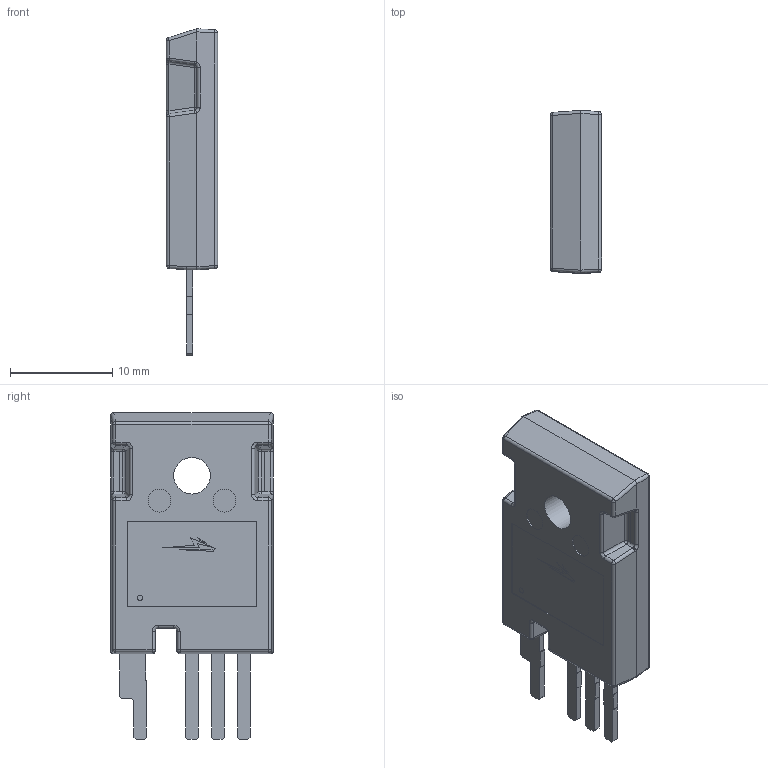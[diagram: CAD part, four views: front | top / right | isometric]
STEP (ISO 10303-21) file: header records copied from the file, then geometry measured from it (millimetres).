
FILE_DESCRIPTION(/* description */ (''),/* implementation_level */ '2;1');
FILE_NAME(/* name */ 'C:\Users\k\Desktop\1.stp',/* time_stamp */ '2022-01-06T15:42:21+02:00',/* author */ ('k'),/* organization */ (''),/* preprocessor_version */ 'ST-DEVELOPER v15.6',/* originating_system */ 'Autodesk Inventor 2015',/* authorisation */ '');
FILE_SCHEMA (('AUTOMOTIVE_DESIGN { 1 0 10303 214 3 1 1 }'));
Length unit declared in the file: millimetre
Products named in the file (8): 1; 2; 3; 4; Wolf Speed Logo; 2222; 2222_MIR
Bounding box: 5.02 x 15.94 x 31.97 mm (x, y, z)
Volume: 1734.8 mm3; surface area: 1925.8 mm2
Topology: 15 solids, 15 shells, 265 faces, 608 edges, 376 vertices
Faces by surface type: plane 154, cylinder 65, bspline 22, sphere 20, torus 4
Full cylindrical faces by diameter (mm): 0.547 x1, 2.235 x4, 3.58 x1, 7.18 x1
Entity records: 7921 total; most frequent: CARTESIAN_POINT 1789, DIRECTION 1225, ORIENTED_EDGE 1202, EDGE_CURVE 601, LINE 425, VECTOR 425, AXIS2_PLACEMENT_3D 400, VERTEX_POINT 376
